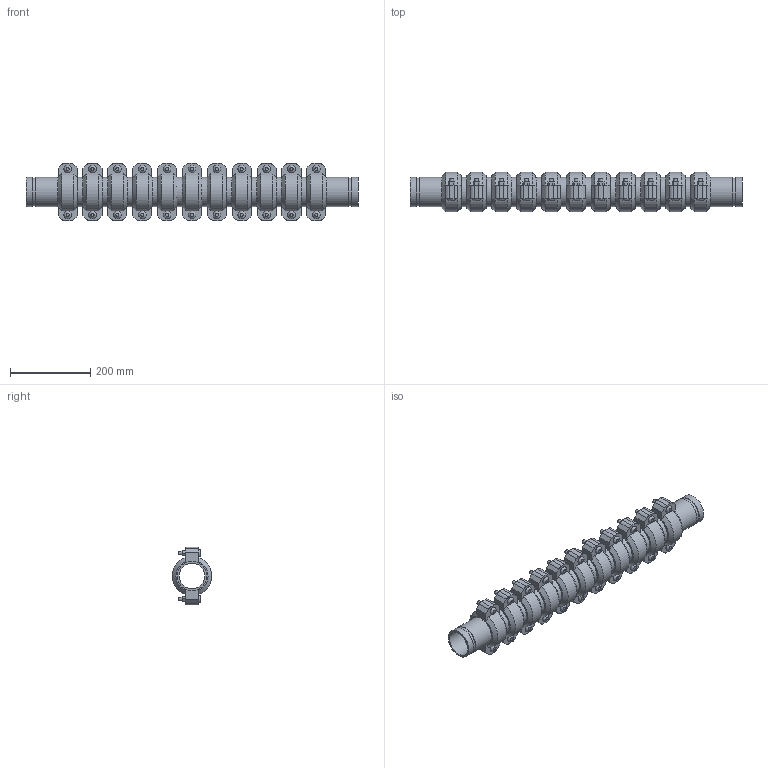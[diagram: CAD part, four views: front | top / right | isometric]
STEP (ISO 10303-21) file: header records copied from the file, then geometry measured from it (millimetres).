
FILE_DESCRIPTION(/* description */ ('VIC SS EXPANSION JOINT 11 COUPLINGS EXPANDED STYLE 155P (OGS) (POTABLE WATER) ','CAx-IF Rec.Pracs.---Representation and Presentation of Product Manufacturing Information (PMI)---4.0---2014-10-13'),/* implementation_level */ '2;1');
FILE_NAME(/* name */ 'C:\Users\kkamble\AppData\Roaming\Autodesk\ApplicationPlugins\Victaulic.Temp\A494\Victaulic_SS_Expansion Joint_Expanded_11 Couplings_Style 155P (OGS)-Potable Water_11 Coup_Expd_2.5 (65).stp',/* time_stamp */ '2021-07-16T16:46:10+05:00',/* author */ ('kkamble'),/* organization */ ('Victaulic'),/* preprocessor_version */ 'ST-DEVELOPER v17.2',/* originating_system */ 'Autodesk Inventor 2019',/* authorisation */ '');
FILE_SCHEMA (('AP242_MANAGED_MODEL_BASED_3D_ENGINEERING_MIM_LF { 1 0 10303 442 1 1 4 }'));
Length unit declared in the file: inch
Products named in the file (4): 155P-02.5; Nipple-02.5; Nipple-02.5_1; 075-02.5
Assembly tree (23 placements, depth 2):
  155P-02.5
    Nipple-02.5  x2
    Nipple-02.5_1  x10
    075-02.5  x11
Bounding box: 827.28 x 98.22 x 144.27 mm (x, y, z)
Volume: 3117684.7 mm3; surface area: 875174.3 mm2
Topology: 23 solids, 45 shells, 771 faces, 1823 edges, 1278 vertices
Faces by surface type: plane 468, cylinder 237, cone 44, bspline 22
Full cylindrical faces by diameter (mm): 9.525 x44, 11.43 x22, 63.475 x12, 66.675 x11, 69.088 x24, 73.025 x58
Entity records: 2888 total; most frequent: CARTESIAN_POINT 507, DIRECTION 489, ORIENTED_EDGE 386, AXIS2_PLACEMENT_3D 198, EDGE_CURVE 193, VERTEX_POINT 138, EDGE_LOOP 107, LINE 93
